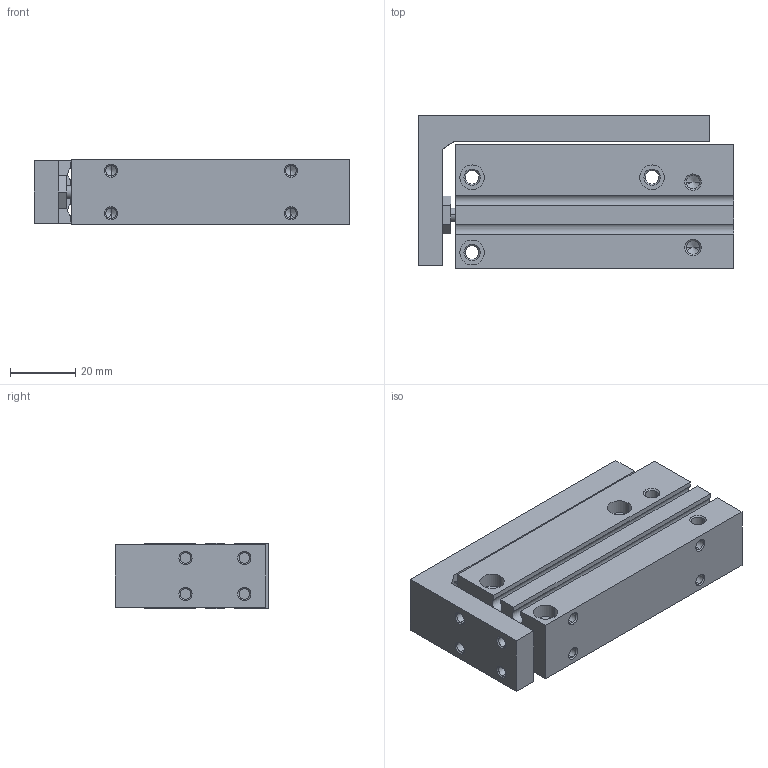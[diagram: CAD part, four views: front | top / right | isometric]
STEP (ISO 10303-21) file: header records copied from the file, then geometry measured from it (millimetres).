
FILE_DESCRIPTION (( 'STEP AP203' ), '1' );
FILE_NAME ('CXH10-50.STEP', '2020-04-16T18:08:30', ( '' ), ( '' ), 'SwSTEP 2.0', 'SolidWorks 2019', '' );
FILE_SCHEMA (( 'CONFIG_CONTROL_DESIGN' ));
Length unit declared in the file: millimetre
Products named in the file (1): CXH10-50
Bounding box: 96.5 x 47 x 20 mm (x, y, z)
Volume: 71582.7 mm3; surface area: 27672.5 mm2
Topology: 2 solids, 2 shells, 216 faces, 515 edges, 298 vertices
Faces by surface type: cone 92, cylinder 80, plane 44
Entity records: 6220 total; most frequent: DIRECTION 1141, CARTESIAN_POINT 1088, ORIENTED_EDGE 974, EDGE_CURVE 487, AXIS2_PLACEMENT_3D 441, VERTEX_POINT 298, EDGE_LOOP 265, VECTOR 259
